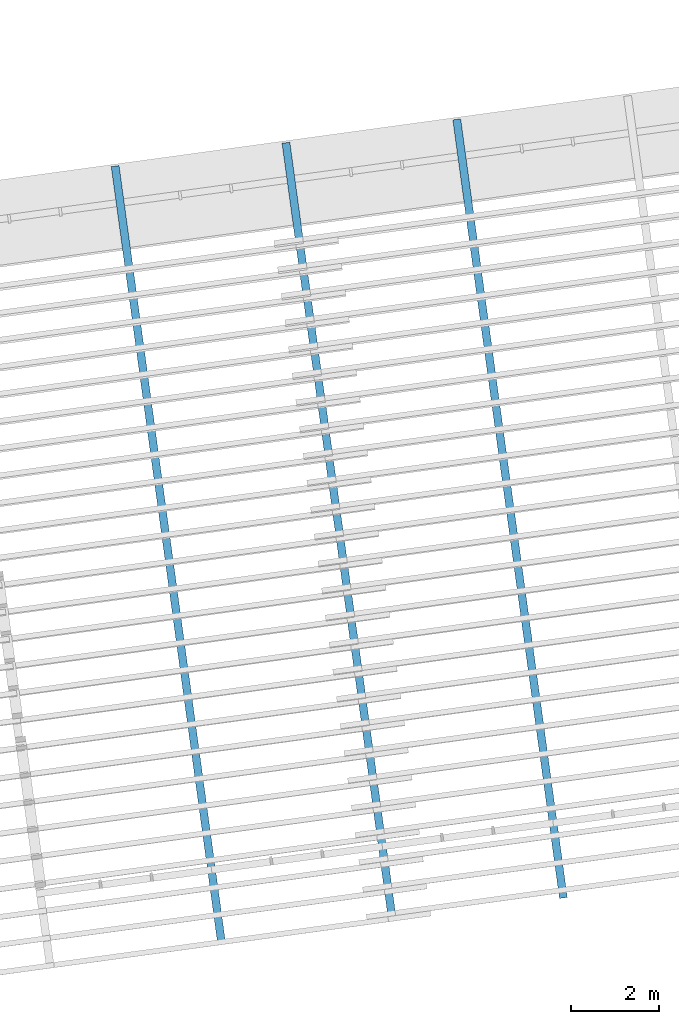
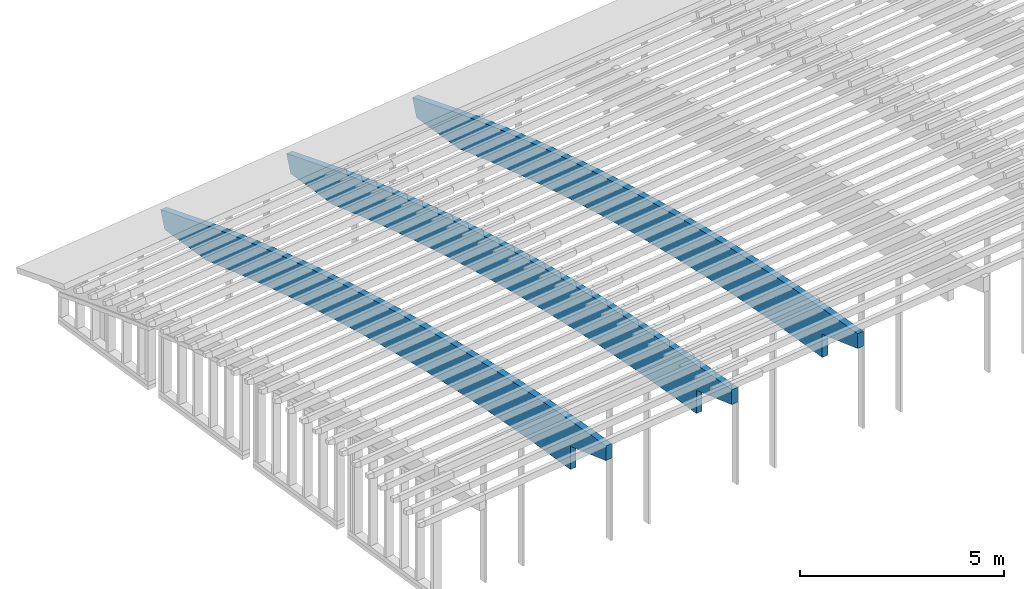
# One storey, part 4 of 18: 3 slabs.
"""IFC2X3 building model written with IfcOpenShell, lengths in metres."""

from ifc_helpers import new_model, entity, si_unit, converted_unit, derived_unit, money_unit, direction, frame, origin_with_axes, place, context, subcontext, project, spatial, faceted_brep, material, type_object, element, save


model = new_model("IFC2X3")

# Units and contexts
model_context = context("Model", 3, precision=1e-05, world=origin_with_axes(), true_north=direction((0.0, 1.0)))
body_context = subcontext(model_context, "Body", "Model", "MODEL_VIEW")
ifc_project = project(units=[si_unit("LENGTHUNIT", "METRE"), si_unit("AREAUNIT", "SQUARE_METRE"), si_unit("VOLUMEUNIT", "CUBIC_METRE"), converted_unit("PLANEANGLEUNIT", "DEGREE", entity("IfcPlaneAngleMeasure", 0.0174532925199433), si_unit("PLANEANGLEUNIT", "RADIAN"), dimensions=[0, 0, 0, 0, 0, 0, 0]), money_unit("EUR"), converted_unit("TIMEUNIT", "Year", entity("IfcTimeMeasure", 31557600.0), si_unit("TIMEUNIT", "SECOND"), dimensions=[0, 0, 1, 0, 0, 0, 0]), si_unit("MASSUNIT", "GRAM", prefix="KILO"), si_unit("THERMODYNAMICTEMPERATUREUNIT", "DEGREE_CELSIUS"), si_unit("LUMINOUSINTENSITYUNIT", "LUMEN"), si_unit("ENERGYUNIT", "JOULE", prefix="MEGA"), derived_unit("THERMALCONDUCTANCEUNIT", [(si_unit("POWERUNIT", "WATT"), 1), (si_unit("LENGTHUNIT", "METRE"), -1), (si_unit("THERMODYNAMICTEMPERATUREUNIT", "KELVIN"), -1)]), derived_unit("SPECIFICHEATCAPACITYUNIT", [(si_unit("ENERGYUNIT", "JOULE"), 1), (si_unit("MASSUNIT", "GRAM", prefix="KILO"), -1), (si_unit("THERMODYNAMICTEMPERATUREUNIT", "KELVIN"), -1)]), derived_unit("MASSDENSITYUNIT", [(si_unit("MASSUNIT", "GRAM", prefix="KILO"), 1), (si_unit("VOLUMEUNIT", "CUBIC_METRE"), -1)])], contexts=[model_context])

# Site, building, storey
site_placement = place(None, origin_with_axes())
site = spatial("IfcSite", under=ifc_project, at=site_placement, Name="Gelände", CompositionType="ELEMENT")
building_placement = place(site_placement, origin_with_axes())
building = spatial("IfcBuilding", under=site, at=building_placement, Name="Gebäude", CompositionType="ELEMENT")
storey_placement = place(building_placement, frame((0.0, 0.0, 5.5), z_axis=(0.0, 0.0, 1.0), x_axis=(1.0, 0.0, 0.0)))
storey = spatial("IfcBuildingStorey", under=building, at=storey_placement, Name="OG", CompositionType="ELEMENT", Elevation=5.5)

# Slabs
ifc_material = material(Name="Holz, Brettschichtholz")
slab_type = type_object("IfcSlabType", Name="Holz, Brettschichtholz", PredefinedType="FLOOR")
slab_1_placement = place(storey_placement, frame((79.86107700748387, -25.94005208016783, 163.5688041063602), z_axis=(-0.9907484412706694, -0.1357111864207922, 0.0), x_axis=(0.1344556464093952, -0.9815824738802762, -0.1357111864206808)))
element("IfcSlab", 1, at=slab_1_placement, inside=storey, type_object=slab_type, material=ifc_material, Name="Decke-018", PredefinedType="FLOOR", context=body_context, shape_type="Brep", body=[
    faceted_brep([(129.8131057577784, -145.7732572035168, 6.320000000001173), (131.4832013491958, -145.5444900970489, 6.32000000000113), (131.4832013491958, -145.5444900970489, 6.500000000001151), (129.8131057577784, -145.7732572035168, 6.500000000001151), (129.5825010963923, -145.2883496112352, 6.320000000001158), (131.4068356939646, -144.4693910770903, 6.320000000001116), (131.4389592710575, -144.4542429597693, 6.320000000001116), (132.1622788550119, -144.1494844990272, 6.320000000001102), (132.8894236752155, -143.8539691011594, 6.320000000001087), (133.6202756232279, -143.567744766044, 6.320000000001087), (134.3547159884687, -143.2908579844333, 6.320000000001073), (135.0926254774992, -143.0233537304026, 6.320000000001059), (135.8338842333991, -142.7652754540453, 6.320000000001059), (136.5783718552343, -142.5166650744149, 6.320000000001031), (137.3259674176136, -142.2775629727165, 6.320000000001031), (138.0765494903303, -142.0480079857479, 6.320000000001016), (138.8299961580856, -141.8280373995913, 6.320000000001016), (139.5861850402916, -141.6176869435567, 6.320000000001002), (140.3449933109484, -141.4169907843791, 6.320000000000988), (141.1062977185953, -141.2259815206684, 6.320000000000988), (141.8699746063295, -141.0446901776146, 6.320000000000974), (142.6358999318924, -140.8731462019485, 6.320000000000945), (143.4039492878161, -140.7113774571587, 6.32000000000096), (144.1739979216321, -140.5594102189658, 6.320000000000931), (144.9459207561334, -140.4172691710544, 6.320000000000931), (145.7195924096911, -140.2849774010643, 6.320000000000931), (146.4948872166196, -140.1625563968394, 6.320000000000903), (146.8832832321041, -140.106291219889, 6.320000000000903), (146.9438843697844, -140.5487053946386, 6.320000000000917), (145.5856973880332, -141.0897907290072, 6.320000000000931), (145.6807822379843, -141.7839507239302, 6.320000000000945), (145.2350839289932, -141.8450261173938, 6.320000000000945), (145.2351117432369, -141.8452290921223, 6.320000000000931), (144.8608247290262, -141.8982971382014, 6.320000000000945), (144.113346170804, -142.0118746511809, 6.32000000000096), (143.3674369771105, -142.1353574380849, 6.320000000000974), (142.6232287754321, -142.2687238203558, 6.320000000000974), (141.8808528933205, -142.4119503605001, 6.320000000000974), (141.1404403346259, -142.5650118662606, 6.320000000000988), (140.4021217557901, -142.7278813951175, 6.320000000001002), (139.6660274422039, -142.9005302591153, 6.320000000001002), (138.9322872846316, -143.0829280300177, 6.320000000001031), (138.2010307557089, -143.2750425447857, 6.320000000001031), (137.4723868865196, -143.4768399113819, 6.320000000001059), (136.7464842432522, -143.6882845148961, 6.320000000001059), (136.0234509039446, -143.9093390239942, 6.320000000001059), (135.3034144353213, -144.1399643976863, 6.320000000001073), (134.5865018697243, -144.3801198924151, 6.320000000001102), (133.8728396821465, -144.6297630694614, 6.320000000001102), (133.1625537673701, -144.8888498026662, 6.320000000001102), (132.4557694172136, -145.1573342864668, 6.320000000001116), (131.7526112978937, -145.4351690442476, 6.32000000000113), (131.7521814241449, -145.4341018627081, 6.500000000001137), (129.5825010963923, -145.2883496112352, 6.500000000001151), (132.4554403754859, -145.1564850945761, 6.500000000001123), (133.1623099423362, -144.8881948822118, 6.500000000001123), (133.8726664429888, -144.6292781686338, 6.500000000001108), (134.5863855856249, -144.3797802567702, 6.500000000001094), (135.3033424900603, -144.1397448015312, 6.50000000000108), (136.0234117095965, -143.9092138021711, 6.50000000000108), (136.7464672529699, -143.6882275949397, 6.500000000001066), (137.4723826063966, -143.4768248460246, 6.500000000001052), (138.2010307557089, -143.2750425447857, 6.500000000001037), (138.9322842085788, -143.082915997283, 6.500000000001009), (139.6660150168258, -142.9004788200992, 6.500000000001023), (140.4020947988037, -142.7277629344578, 6.500000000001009), (141.140394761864, -142.5647985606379, 6.500000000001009), (141.880785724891, -142.411614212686, 6.500000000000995), (142.6231381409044, -142.2682366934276, 6.500000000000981), (143.3673221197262, -142.1346910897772, 6.500000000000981), (144.1132074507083, -142.0110007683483, 6.500000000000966), (144.860663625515, -141.8971873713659, 6.500000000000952), (145.2351117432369, -141.8452290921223, 6.500000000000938), (145.2350839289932, -141.8450261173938, 6.500000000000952), (145.6807822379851, -141.7839507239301, 6.500000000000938), (145.585697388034, -141.0897907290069, 6.500000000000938), (146.9438843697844, -140.5487053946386, 6.500000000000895), (146.8832832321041, -140.106291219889, 6.500000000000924), (146.4950582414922, -140.1636882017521, 6.500000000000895), (145.7197458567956, -140.2859119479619, 6.500000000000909), (144.9460548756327, -140.4180254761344, 6.500000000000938), (144.1741116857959, -140.5600072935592, 6.500000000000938), (143.4040423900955, -140.711834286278, 6.500000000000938), (142.6359727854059, -140.8734817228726, 6.500000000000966), (141.8700283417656, -141.0449232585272, 6.500000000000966), (141.1063341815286, -141.2261309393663, 6.500000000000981), (140.3450150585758, -141.4170752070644, 6.500000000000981), (139.5861953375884, -141.6177249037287, 6.500000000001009), (138.829998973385, -141.8280472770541, 6.500000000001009), (138.0765494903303, -142.0480079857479, 6.500000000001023), (137.3259699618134, -142.2775711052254, 6.500000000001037), (136.578382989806, -142.5166991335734, 6.500000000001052), (135.8339106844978, -142.7653529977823, 6.500000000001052), (135.0926746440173, -143.0234920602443, 6.500000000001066), (134.3547959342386, -143.2910741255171, 6.500000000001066), (133.62039506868, -143.5680554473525, 6.500000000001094), (132.8895919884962, -143.8543907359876, 6.500000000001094), (132.1625060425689, -144.1500331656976, 6.500000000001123), (131.4392559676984, -144.4549343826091, 6.500000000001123), (131.4066420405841, -144.4689405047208, 6.500000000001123)], [[[0, 1, 2, 3]], [[0, 4, 5, 6, 7, 8, 9, 10, 11, 12, 13, 14, 15, 16, 17, 18, 19, 20, 21, 22, 23, 24, 25, 26, 27, 28, 29, 30, 31, 32, 33, 34, 35, 36, 37, 38, 39, 40, 41, 42, 43, 44, 45, 46, 47, 48, 49, 50, 51, 1]], [[2, 1, 52]], [[53, 3, 2, 52, 54, 55, 56, 57, 58, 59, 60, 61, 62, 63, 64, 65, 66, 67, 68, 69, 70, 71, 72, 73, 74, 75, 76, 77, 78, 79, 80, 81, 82, 83, 84, 85, 86, 87, 88, 89, 90, 91, 92, 93, 94, 95, 96, 97, 98, 99]], [[4, 0, 3, 53]], [[4, 53, 5]], [[6, 5, 99]], [[7, 6, 98]], [[8, 7, 97]], [[9, 8, 96]], [[10, 9, 95]], [[11, 10, 93]], [[12, 11, 93]], [[12, 92, 13]], [[14, 13, 91, 90]], [[15, 14, 90, 89]], [[16, 15, 89, 88]], [[17, 16, 88]], [[18, 17, 87]], [[19, 18, 86]], [[20, 19, 85]], [[21, 20, 84]], [[22, 21, 83]], [[23, 22, 81]], [[24, 23, 81]], [[24, 80, 25]], [[26, 25, 79]], [[27, 26, 78, 77]], [[76, 28, 27, 77]], [[75, 29, 28, 76]], [[30, 29, 75, 74]], [[31, 30, 74, 73]], [[32, 31, 73, 72]], [[33, 32, 72]], [[34, 33, 71]], [[69, 35, 34]], [[68, 36, 35]], [[37, 36, 68]], [[38, 37, 67]], [[39, 38, 66]], [[40, 39, 65]], [[41, 40, 64]], [[42, 41, 63, 62]], [[61, 43, 42, 62]], [[44, 43, 61]], [[45, 44, 60]], [[46, 45, 59]], [[47, 46, 58]], [[56, 48, 47]], [[49, 48, 55]], [[50, 49, 55]], [[51, 50, 54]], [[1, 51, 52]], [[52, 51, 54]], [[54, 50, 55]], [[48, 56, 55]], [[47, 57, 56]], [[57, 47, 58]], [[58, 46, 59]], [[59, 45, 60]], [[60, 44, 61]], [[63, 41, 64]], [[64, 40, 65]], [[65, 39, 66]], [[66, 38, 67]], [[67, 37, 68]], [[69, 68, 35]], [[34, 70, 69]], [[70, 34, 71]], [[71, 33, 72]], [[78, 26, 79]], [[80, 79, 25]], [[80, 24, 81]], [[22, 82, 81]], [[22, 83, 82]], [[21, 84, 83]], [[20, 85, 84]], [[86, 85, 19]], [[86, 18, 87]], [[87, 17, 88]], [[92, 91, 13]], [[92, 12, 93]], [[10, 94, 93]], [[95, 94, 10]], [[95, 9, 96]], [[96, 8, 97]], [[98, 97, 7]], [[98, 6, 99]], [[5, 53, 99]]]),
])
slab_2_placement = place(storey_placement, frame((83.73914947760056, -25.40883972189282, 163.5688041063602), z_axis=(-0.9907484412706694, -0.1357111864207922, 0.0), x_axis=(0.1344556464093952, -0.9815824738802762, -0.1357111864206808)))
element("IfcSlab", 2, at=slab_2_placement, inside=storey, type_object=slab_type, material=ifc_material, Name="Decke-018", PredefinedType="FLOOR", context=body_context, shape_type="Brep", body=[
    faceted_brep([(129.8131057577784, -145.7732572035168, 6.320000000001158), (131.4832013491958, -145.5444900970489, 6.320000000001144), (131.4832013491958, -145.5444900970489, 6.500000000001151), (129.8131057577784, -145.7732572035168, 6.500000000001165), (129.5825010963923, -145.2883496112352, 6.320000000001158), (131.4068356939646, -144.4693910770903, 6.32000000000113), (131.4389592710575, -144.4542429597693, 6.320000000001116), (132.1622788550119, -144.1494844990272, 6.320000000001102), (132.8894236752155, -143.8539691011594, 6.320000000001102), (133.6202756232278, -143.567744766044, 6.320000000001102), (134.3547159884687, -143.2908579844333, 6.320000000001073), (135.0926254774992, -143.0233537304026, 6.320000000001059), (135.8338842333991, -142.7652754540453, 6.320000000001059), (136.5783718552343, -142.5166650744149, 6.320000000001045), (137.3259674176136, -142.2775629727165, 6.320000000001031), (138.0765494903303, -142.0480079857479, 6.320000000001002), (138.8299961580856, -141.8280373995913, 6.320000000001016), (139.5861850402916, -141.6176869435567, 6.320000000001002), (140.3449933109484, -141.4169907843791, 6.320000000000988), (141.1062977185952, -141.2259815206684, 6.320000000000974), (141.8699746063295, -141.0446901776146, 6.320000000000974), (142.6358999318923, -140.8731462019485, 6.32000000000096), (143.4039492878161, -140.7113774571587, 6.320000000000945), (144.1739979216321, -140.5594102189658, 6.320000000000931), (144.9459207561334, -140.4172691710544, 6.320000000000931), (145.7195924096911, -140.2849774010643, 6.320000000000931), (146.4948872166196, -140.1625563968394, 6.320000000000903), (146.8832832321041, -140.1062912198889, 6.320000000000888), (146.9438843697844, -140.5487053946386, 6.320000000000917), (145.5856973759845, -141.0897907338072, 6.320000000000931), (145.6807822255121, -141.7839507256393, 6.320000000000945), (145.2350839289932, -141.8450261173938, 6.320000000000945), (145.2351117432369, -141.8452290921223, 6.320000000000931), (144.8608247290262, -141.8982971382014, 6.320000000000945), (144.113346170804, -142.0118746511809, 6.320000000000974), (143.3674369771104, -142.1353574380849, 6.320000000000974), (142.6232287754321, -142.2687238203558, 6.320000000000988), (141.8808528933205, -142.4119503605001, 6.320000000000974), (141.1404403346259, -142.5650118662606, 6.320000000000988), (140.4021217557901, -142.7278813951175, 6.320000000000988), (139.6660274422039, -142.9005302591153, 6.320000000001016), (138.9322872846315, -143.0829280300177, 6.320000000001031), (138.2010307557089, -143.2750425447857, 6.320000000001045), (137.4723868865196, -143.4768399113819, 6.320000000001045), (136.7464842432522, -143.6882845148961, 6.320000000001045), (136.0234509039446, -143.9093390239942, 6.320000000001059), (135.3034144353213, -144.1399643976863, 6.320000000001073), (134.5865018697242, -144.3801198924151, 6.320000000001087), (133.8728396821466, -144.6297630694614, 6.320000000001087), (133.1625537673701, -144.8888498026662, 6.320000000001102), (132.4557694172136, -145.1573342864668, 6.32000000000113), (131.7526112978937, -145.4351690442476, 6.32000000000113), (131.7521814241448, -145.4341018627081, 6.500000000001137), (129.5825010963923, -145.2883496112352, 6.500000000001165), (132.4554403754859, -145.1564850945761, 6.500000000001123), (133.1623099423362, -144.8881948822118, 6.500000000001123), (133.8726664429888, -144.6292781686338, 6.500000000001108), (134.5863855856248, -144.3797802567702, 6.500000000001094), (135.3033424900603, -144.1397448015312, 6.50000000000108), (136.0234117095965, -143.9092138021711, 6.50000000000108), (136.7464672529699, -143.6882275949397, 6.50000000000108), (137.4723826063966, -143.4768248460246, 6.500000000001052), (138.2010307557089, -143.2750425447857, 6.500000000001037), (138.9322842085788, -143.082915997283, 6.500000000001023), (139.6660150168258, -142.9004788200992, 6.500000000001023), (140.4020947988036, -142.7277629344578, 6.500000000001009), (141.140394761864, -142.5647985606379, 6.500000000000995), (141.880785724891, -142.411614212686, 6.500000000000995), (142.6231381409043, -142.2682366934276, 6.500000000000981), (143.3673221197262, -142.1346910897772, 6.500000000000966), (144.1132074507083, -142.0110007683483, 6.500000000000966), (144.860663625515, -141.8971873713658, 6.500000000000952), (145.2351117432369, -141.8452290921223, 6.500000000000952), (145.2350839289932, -141.8450261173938, 6.500000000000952), (145.680782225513, -141.7839507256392, 6.500000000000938), (145.5856973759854, -141.0897907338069, 6.500000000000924), (146.9438843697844, -140.5487053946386, 6.500000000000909), (146.8832832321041, -140.106291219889, 6.500000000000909), (146.4950582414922, -140.1636882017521, 6.500000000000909), (145.7197458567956, -140.2859119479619, 6.500000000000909), (144.9460548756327, -140.4180254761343, 6.500000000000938), (144.1741116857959, -140.5600072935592, 6.500000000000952), (143.4040423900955, -140.711834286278, 6.500000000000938), (142.6359727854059, -140.8734817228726, 6.500000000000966), (141.8700283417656, -141.0449232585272, 6.500000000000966), (141.1063341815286, -141.2261309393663, 6.500000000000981), (140.3450150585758, -141.4170752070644, 6.500000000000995), (139.5861953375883, -141.6177249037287, 6.500000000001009), (138.829998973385, -141.8280472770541, 6.500000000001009), (138.0765494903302, -142.0480079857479, 6.500000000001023), (137.3259699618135, -142.2775711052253, 6.500000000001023), (136.5783829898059, -142.5166991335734, 6.500000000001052), (135.8339106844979, -142.7653529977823, 6.500000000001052), (135.0926746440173, -143.0234920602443, 6.500000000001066), (134.3547959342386, -143.2910741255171, 6.50000000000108), (133.62039506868, -143.5680554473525, 6.500000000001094), (132.8895919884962, -143.8543907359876, 6.500000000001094), (132.1625060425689, -144.1500331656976, 6.500000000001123), (131.4392559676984, -144.4549343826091, 6.500000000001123), (131.406642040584, -144.4689405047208, 6.500000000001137)], [[[0, 1, 2, 3]], [[0, 4, 5, 6, 7, 8, 9, 10, 11, 12, 13, 14, 15, 16, 17, 18, 19, 20, 21, 22, 23, 24, 25, 26, 27, 28, 29, 30, 31, 32, 33, 34, 35, 36, 37, 38, 39, 40, 41, 42, 43, 44, 45, 46, 47, 48, 49, 50, 51, 1]], [[2, 1, 52]], [[53, 3, 2, 52, 54, 55, 56, 57, 58, 59, 60, 61, 62, 63, 64, 65, 66, 67, 68, 69, 70, 71, 72, 73, 74, 75, 76, 77, 78, 79, 80, 81, 82, 83, 84, 85, 86, 87, 88, 89, 90, 91, 92, 93, 94, 95, 96, 97, 98, 99]], [[4, 0, 3, 53]], [[4, 53, 5]], [[6, 5, 99]], [[7, 6, 98]], [[8, 7, 97]], [[9, 8, 96]], [[10, 9, 95]], [[11, 10, 93]], [[12, 11, 93]], [[12, 92, 13]], [[14, 13, 91, 90]], [[15, 14, 90, 89]], [[16, 15, 89, 88]], [[17, 16, 88]], [[18, 17, 87]], [[19, 18, 86]], [[20, 19, 85]], [[21, 20, 84]], [[22, 21, 83]], [[23, 22, 81]], [[24, 23, 81]], [[24, 80, 25]], [[26, 25, 79]], [[27, 26, 78, 77]], [[76, 28, 27, 77]], [[75, 29, 28, 76]], [[30, 29, 75, 74]], [[31, 30, 74, 73]], [[32, 31, 73, 72]], [[33, 32, 72]], [[34, 33, 71]], [[69, 35, 34]], [[68, 36, 35]], [[37, 36, 68]], [[38, 37, 67]], [[39, 38, 66]], [[40, 39, 65]], [[41, 40, 64]], [[42, 41, 63, 62]], [[61, 43, 42, 62]], [[44, 43, 61]], [[45, 44, 60]], [[46, 45, 59]], [[47, 46, 58]], [[56, 48, 47]], [[49, 48, 55]], [[50, 49, 55]], [[51, 50, 54]], [[1, 51, 52]], [[52, 51, 54]], [[54, 50, 55]], [[48, 56, 55]], [[47, 57, 56]], [[57, 47, 58]], [[58, 46, 59]], [[59, 45, 60]], [[60, 44, 61]], [[63, 41, 64]], [[64, 40, 65]], [[65, 39, 66]], [[66, 38, 67]], [[67, 37, 68]], [[69, 68, 35]], [[34, 70, 69]], [[70, 34, 71]], [[71, 33, 72]], [[78, 26, 79]], [[80, 79, 25]], [[80, 24, 81]], [[22, 82, 81]], [[22, 83, 82]], [[21, 84, 83]], [[20, 85, 84]], [[86, 85, 19]], [[86, 18, 87]], [[87, 17, 88]], [[92, 91, 13]], [[92, 12, 93]], [[10, 94, 93]], [[95, 94, 10]], [[95, 9, 96]], [[96, 8, 97]], [[98, 97, 7]], [[98, 6, 99]], [[5, 53, 99]]]),
])
slab_3_placement = place(storey_placement, frame((87.6172219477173, -24.87762736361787, 163.5688041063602), z_axis=(-0.9907484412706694, -0.1357111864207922, 0.0), x_axis=(0.1344556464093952, -0.9815824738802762, -0.1357111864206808)))
element("IfcSlab", 3, at=slab_3_placement, inside=storey, type_object=slab_type, material=ifc_material, Name="Decke-018", PredefinedType="FLOOR", context=body_context, shape_type="Brep", body=[
    faceted_brep([(129.8131057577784, -145.7732572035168, 6.320000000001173), (131.4832013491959, -145.5444900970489, 6.320000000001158), (131.4832013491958, -145.5444900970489, 6.500000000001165), (129.8131057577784, -145.7732572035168, 6.500000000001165), (129.5825010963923, -145.2883496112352, 6.320000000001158), (131.4068356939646, -144.4693910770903, 6.32000000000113), (131.4389592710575, -144.4542429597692, 6.32000000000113), (132.1622788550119, -144.1494844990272, 6.320000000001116), (132.8894236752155, -143.8539691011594, 6.320000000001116), (133.6202756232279, -143.5677447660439, 6.320000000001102), (134.3547159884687, -143.2908579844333, 6.320000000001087), (135.0926254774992, -143.0233537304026, 6.320000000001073), (135.8338842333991, -142.7652754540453, 6.320000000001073), (136.5783718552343, -142.5166650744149, 6.320000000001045), (137.3259674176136, -142.2775629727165, 6.320000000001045), (138.0765494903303, -142.0480079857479, 6.320000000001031), (138.8299961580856, -141.8280373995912, 6.320000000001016), (139.5861850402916, -141.6176869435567, 6.320000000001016), (140.3449933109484, -141.4169907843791, 6.320000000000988), (141.1062977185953, -141.2259815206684, 6.320000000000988), (141.8699746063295, -141.0446901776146, 6.320000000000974), (142.6358999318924, -140.8731462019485, 6.32000000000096), (143.4039492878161, -140.7113774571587, 6.320000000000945), (144.1739979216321, -140.5594102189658, 6.320000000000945), (144.9459207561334, -140.4172691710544, 6.320000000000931), (145.7195924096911, -140.2849774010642, 6.320000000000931), (146.4948872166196, -140.1625563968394, 6.320000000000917), (146.8832832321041, -140.1062912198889, 6.320000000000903), (146.9438843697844, -140.5487053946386, 6.320000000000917), (145.5856974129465, -141.089790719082, 6.320000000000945), (145.680782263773, -141.7839507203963, 6.32000000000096), (145.2350839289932, -141.8450261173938, 6.32000000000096), (145.2351117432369, -141.8452290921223, 6.320000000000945), (144.8608247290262, -141.8982971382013, 6.32000000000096), (144.113346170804, -142.0118746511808, 6.320000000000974), (143.3674369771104, -142.1353574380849, 6.320000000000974), (142.6232287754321, -142.2687238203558, 6.320000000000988), (141.8808528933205, -142.4119503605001, 6.320000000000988), (141.1404403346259, -142.5650118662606, 6.320000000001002), (140.4021217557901, -142.7278813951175, 6.320000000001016), (139.6660274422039, -142.9005302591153, 6.320000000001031), (138.9322872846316, -143.0829280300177, 6.320000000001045), (138.2010307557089, -143.2750425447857, 6.320000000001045), (137.4723868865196, -143.4768399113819, 6.320000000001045), (136.7464842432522, -143.6882845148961, 6.320000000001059), (136.0234509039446, -143.9093390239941, 6.320000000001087), (135.3034144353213, -144.1399643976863, 6.320000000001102), (134.5865018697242, -144.3801198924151, 6.320000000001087), (133.8728396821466, -144.6297630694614, 6.320000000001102), (133.1625537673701, -144.8888498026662, 6.320000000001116), (132.4557694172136, -145.1573342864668, 6.32000000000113), (131.7526112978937, -145.4351690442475, 6.320000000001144), (131.7521814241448, -145.4341018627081, 6.500000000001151), (129.5825010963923, -145.2883496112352, 6.500000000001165), (132.4554403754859, -145.1564850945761, 6.500000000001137), (133.1623099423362, -144.8881948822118, 6.500000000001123), (133.8726664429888, -144.6292781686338, 6.500000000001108), (134.5863855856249, -144.3797802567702, 6.500000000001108), (135.3033424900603, -144.1397448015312, 6.500000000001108), (136.0234117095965, -143.909213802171, 6.50000000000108), (136.7464672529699, -143.6882275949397, 6.50000000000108), (137.4723826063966, -143.4768248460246, 6.500000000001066), (138.2010307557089, -143.2750425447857, 6.500000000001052), (138.9322842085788, -143.082915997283, 6.500000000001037), (139.6660150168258, -142.9004788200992, 6.500000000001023), (140.4020947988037, -142.7277629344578, 6.500000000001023), (141.140394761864, -142.5647985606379, 6.500000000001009), (141.880785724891, -142.411614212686, 6.500000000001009), (142.6231381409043, -142.2682366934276, 6.500000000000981), (143.3673221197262, -142.1346910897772, 6.500000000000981), (144.1132074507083, -142.0110007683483, 6.500000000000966), (144.860663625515, -141.8971873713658, 6.500000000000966), (145.2351117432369, -141.8452290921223, 6.500000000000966), (145.2350839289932, -141.8450261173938, 6.500000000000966), (145.6807822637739, -141.7839507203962, 6.500000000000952), (145.5856974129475, -141.0897907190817, 6.500000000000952), (146.9438843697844, -140.5487053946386, 6.500000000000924), (146.8832832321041, -140.106291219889, 6.500000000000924), (146.4950582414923, -140.1636882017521, 6.500000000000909), (145.7197458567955, -140.2859119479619, 6.500000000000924), (144.9460548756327, -140.4180254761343, 6.500000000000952), (144.1741116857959, -140.5600072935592, 6.500000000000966), (143.4040423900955, -140.711834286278, 6.500000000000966), (142.6359727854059, -140.8734817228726, 6.500000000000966), (141.8700283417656, -141.0449232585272, 6.500000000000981), (141.1063341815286, -141.2261309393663, 6.500000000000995), (140.3450150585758, -141.4170752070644, 6.500000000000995), (139.5861953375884, -141.6177249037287, 6.500000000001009), (138.829998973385, -141.8280472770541, 6.500000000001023), (138.0765494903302, -142.0480079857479, 6.500000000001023), (137.3259699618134, -142.2775711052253, 6.500000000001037), (136.578382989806, -142.5166991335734, 6.500000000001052), (135.8339106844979, -142.7653529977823, 6.500000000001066), (135.0926746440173, -143.0234920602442, 6.50000000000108), (134.3547959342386, -143.291074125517, 6.50000000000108), (133.62039506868, -143.5680554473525, 6.500000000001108), (132.8895919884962, -143.8543907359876, 6.500000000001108), (132.1625060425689, -144.1500331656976, 6.500000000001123), (131.4392559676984, -144.4549343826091, 6.500000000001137), (131.406642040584, -144.4689405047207, 6.500000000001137)], [[[0, 1, 2, 3]], [[0, 4, 5, 6, 7, 8, 9, 10, 11, 12, 13, 14, 15, 16, 17, 18, 19, 20, 21, 22, 23, 24, 25, 26, 27, 28, 29, 30, 31, 32, 33, 34, 35, 36, 37, 38, 39, 40, 41, 42, 43, 44, 45, 46, 47, 48, 49, 50, 51, 1]], [[2, 1, 52]], [[53, 3, 2, 52, 54, 55, 56, 57, 58, 59, 60, 61, 62, 63, 64, 65, 66, 67, 68, 69, 70, 71, 72, 73, 74, 75, 76, 77, 78, 79, 80, 81, 82, 83, 84, 85, 86, 87, 88, 89, 90, 91, 92, 93, 94, 95, 96, 97, 98, 99]], [[4, 0, 3, 53]], [[4, 53, 5]], [[6, 5, 99]], [[7, 6, 98]], [[8, 7, 97]], [[9, 8, 96]], [[10, 9, 95]], [[11, 10, 93]], [[12, 11, 93]], [[12, 92, 13]], [[14, 13, 91, 90]], [[15, 14, 90, 89]], [[16, 15, 89, 88]], [[17, 16, 88]], [[18, 17, 87]], [[19, 18, 86]], [[20, 19, 85]], [[21, 20, 84]], [[22, 21, 83]], [[23, 22, 81]], [[24, 23, 81]], [[24, 80, 25]], [[26, 25, 79]], [[27, 26, 78, 77]], [[76, 28, 27, 77]], [[75, 29, 28, 76]], [[30, 29, 75, 74]], [[31, 30, 74, 73]], [[32, 31, 73, 72]], [[33, 32, 72]], [[34, 33, 71]], [[69, 35, 34]], [[68, 36, 35]], [[37, 36, 68]], [[38, 37, 67]], [[39, 38, 66]], [[40, 39, 65]], [[41, 40, 64]], [[42, 41, 63, 62]], [[61, 43, 42, 62]], [[44, 43, 61]], [[45, 44, 60]], [[46, 45, 59]], [[47, 46, 58]], [[56, 48, 47]], [[49, 48, 55]], [[50, 49, 55]], [[51, 50, 54]], [[1, 51, 52]], [[52, 51, 54]], [[54, 50, 55]], [[48, 56, 55]], [[47, 57, 56]], [[57, 47, 58]], [[58, 46, 59]], [[59, 45, 60]], [[60, 44, 61]], [[63, 41, 64]], [[64, 40, 65]], [[65, 39, 66]], [[66, 38, 67]], [[67, 37, 68]], [[69, 68, 35]], [[34, 70, 69]], [[70, 34, 71]], [[71, 33, 72]], [[78, 26, 79]], [[80, 79, 25]], [[80, 24, 81]], [[22, 82, 81]], [[22, 83, 82]], [[21, 84, 83]], [[20, 85, 84]], [[86, 85, 19]], [[86, 18, 87]], [[87, 17, 88]], [[92, 91, 13]], [[92, 12, 93]], [[10, 94, 93]], [[95, 94, 10]], [[95, 9, 96]], [[96, 8, 97]], [[98, 97, 7]], [[98, 6, 99]], [[5, 53, 99]]]),
])

save(model, "model.ifc")
